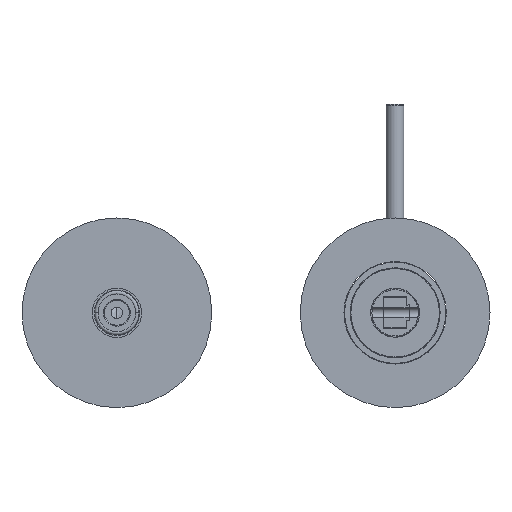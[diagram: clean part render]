
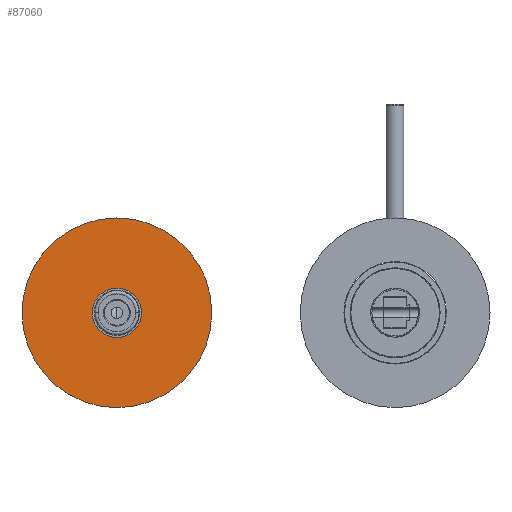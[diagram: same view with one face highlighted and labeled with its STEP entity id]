
A CAD part, front view. The second image highlights one B-rep face of the part: STEP entity #87060.
In plain terms, the highlighted planar face has unit normal (0, -1, 0).
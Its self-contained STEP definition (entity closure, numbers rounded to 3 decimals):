
#26474=CARTESIAN_POINT('',(-110.,-12.,0.));
#26475=DIRECTION('',(0.,-1.,0.));
#26476=DIRECTION('',(-1.,0.,0.));
#26477=AXIS2_PLACEMENT_3D('',#26474,#26475,#26476);
#26479=CARTESIAN_POINT('',(-110.,-12.,0.));
#26480=DIRECTION('',(0.,-1.,0.));
#26481=DIRECTION('',(1.,0.,0.));
#26482=AXIS2_PLACEMENT_3D('',#26479,#26480,#26481);
#26484=CARTESIAN_POINT('',(-110.,-12.,0.));
#26485=DIRECTION('',(0.,1.,0.));
#26486=DIRECTION('',(-1.,0.,0.));
#26487=AXIS2_PLACEMENT_3D('',#26484,#26485,#26486);
#26489=CARTESIAN_POINT('',(-110.,-12.,0.));
#26490=DIRECTION('',(0.,1.,0.));
#26491=DIRECTION('',(1.,0.,0.));
#26492=AXIS2_PLACEMENT_3D('',#26489,#26490,#26491);
#64324=CARTESIAN_POINT('',(-147.5,-12.,0.));
#64325=CARTESIAN_POINT('',(-72.5,-12.,0.));
#64326=VERTEX_POINT('',#64324);
#64327=VERTEX_POINT('',#64325);
#64328=CARTESIAN_POINT('',(-119.75,-12.,0.));
#64329=CARTESIAN_POINT('',(-100.25,-12.,0.));
#64330=VERTEX_POINT('',#64328);
#64331=VERTEX_POINT('',#64329);
#87045=CARTESIAN_POINT('',(-110.,-12.,0.));
#87046=DIRECTION('',(0.,-1.,0.));
#87047=DIRECTION('',(-1.,0.,0.));
#87048=AXIS2_PLACEMENT_3D('',#87045,#87046,#87047);
#87049=PLANE('',#87048);
#87050=ORIENTED_EDGE('',*,*,#87025,.F.);
#87051=ORIENTED_EDGE('',*,*,#87039,.F.);
#87052=EDGE_LOOP('',(#87050,#87051));
#87053=FACE_OUTER_BOUND('',#87052,.F.);
#87055=ORIENTED_EDGE('',*,*,#87054,.F.);
#87057=ORIENTED_EDGE('',*,*,#87056,.F.);
#87058=EDGE_LOOP('',(#87055,#87057));
#87059=FACE_BOUND('',#87058,.F.);
#87060=ADVANCED_FACE('',(#87053,#87059),#87049,.T.);
#26478=CIRCLE('',#26477,37.5);
#26483=CIRCLE('',#26482,37.5);
#26488=CIRCLE('',#26487,9.75);
#26493=CIRCLE('',#26492,9.75);
#87025=EDGE_CURVE('',#64326,#64327,#26478,.T.);
#87039=EDGE_CURVE('',#64327,#64326,#26483,.T.);
#87054=EDGE_CURVE('',#64330,#64331,#26488,.T.);
#87056=EDGE_CURVE('',#64331,#64330,#26493,.T.);
